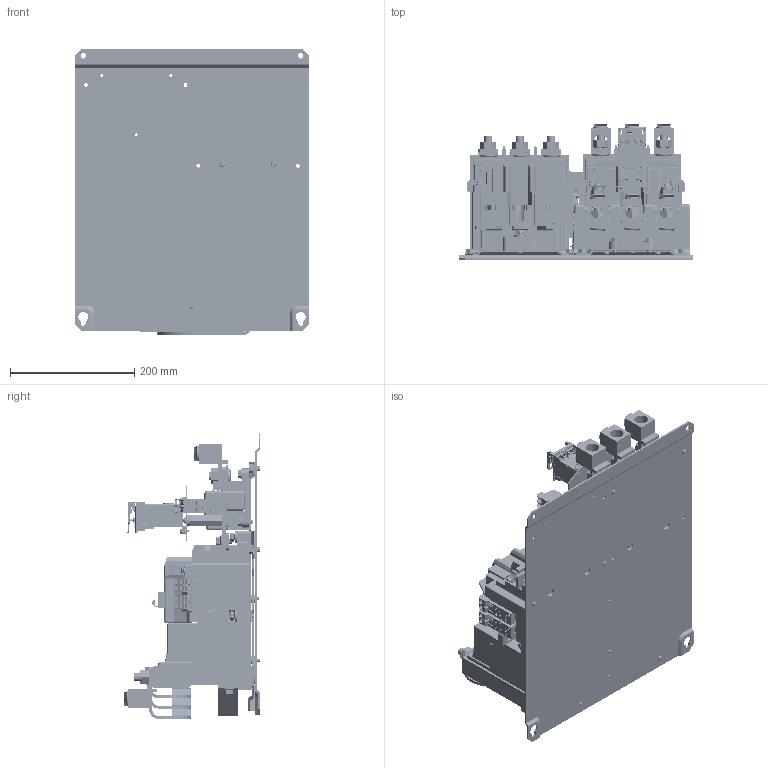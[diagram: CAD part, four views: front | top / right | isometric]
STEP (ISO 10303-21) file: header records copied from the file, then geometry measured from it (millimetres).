
FILE_DESCRIPTION((''),'2;1');
FILE_NAME('10005948298_ASM','2023-06-28T14:57:35',('LEQuenti'),('Rockwell Automation'),'CREO PARAMETRIC BY PTC INC, 2020281','CREO PARAMETRIC BY PTC INC, 2020281','');
FILE_SCHEMA(('CONFIG_CONTROL_DESIGN'));
Products named in the file (179): 42454-42454039; 10006109824; 40794-4044010101_AF1; 40794-4044000201; 40794-4044000102; 42450-42450038_AF1; 28158-28158178_AF1; 28158-28158178_AF0; 28168-2816867526; 40794-4245001202; 40794-4245000102; 40794-4245001002; 40794-4245001102; 40794-2822902701; 10000009835; 10000056049; 10000010198_ASM; 40794-4044010101_AF2; 42450-42450038_AF2; 28158-28158178_AF2; 28158-28158178_AF3; 40794-M22; 10000008663_ASM; 40794-4245003201; 40794-4245002502; 40794-4245002202; 40794-4245000902; 40794-X241563; 40794-4245002301; 40794-2822902801; 40794-4245032452_ASM; 40794-4245002001; 10000005089; 40794-2816860226; 10000005103; 10000005088; 10000005337_ASM; 40794-2280615301; 10006047087; 10002334575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
Assembly tree (407 placements, depth 10):
  10005948298_ASM
    42454-42454039
    10000010198_ASM
      10006109824
      40794-4044010101_AF1
      40794-4044000201
      40794-4044000102
      42450-42450038_AF1
      28158-28158178_AF1
      28158-28158178_AF0
      28168-2816867526  x3
      40794-4245001202
      40794-4245000102  x3
      40794-4245001002
      40794-4245001102
      40794-2822902701  x3
      10000009835
      10000056049  x3
    10005946832_ASM
      10000008663_ASM
        10006109824
        40794-4044010101_AF2
        40794-4044000201
        40794-4044000102
        42450-42450038_AF2
        28158-28158178_AF2
        28158-28158178_AF3
        28168-2816867526  x3
        40794-4245001202
        40794-4245000102  x3
        40794-4245001002
        40794-4245001102
        40794-2822902701  x3
        10000009835
        40794-M22  x3
        10000056049  x3
      10005895158_ASM
        10000005337_ASM
          40794-4245003201
          40794-4245002502
          40794-4245002202  x2
          40794-4245000902
          40794-X241563  x3
          40794-4245032452_ASM  x3
            40794-4245002301
            40794-2822902801
          40794-4245002001  x3
          40794-M22  x3
          10000005089  x2
          28168-2816867526  x2
          40794-2816860226  x4
          10000005103  x3
          10000005088  x2
        40794-2280615301  x2
        10006047087
        10005895152_ASM
          10002334580_ASM
            10002334578_ASM
              10002334575
              40751-176
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Bounding box: 376.94 x 220.55 x 459.76 mm (x, y, z)
Volume: 10257402.6 mm3; surface area: 2449886.7 mm2
Topology: 447 solids, 482 shells, 51665 faces, 140536 edges, 91543 vertices
Faces by surface type: plane 39503, cylinder 6940, cone 1586, extrusion 1499, bspline 1010, torus 714, sphere 413
Entity records: 793086 total; most frequent: CARTESIAN_POINT 207806, ORIENTED_EDGE 125437, DIRECTION 112851, EDGE_CURVE 62780, VECTOR 50547, LINE 50134, VERTEX_POINT 40648, AXIS2_PLACEMENT_3D 31152
